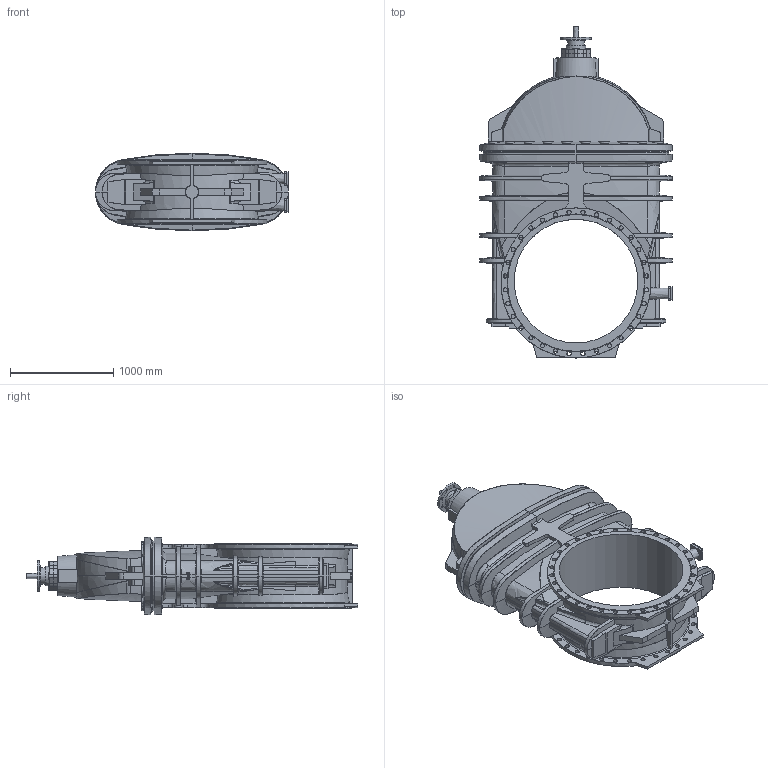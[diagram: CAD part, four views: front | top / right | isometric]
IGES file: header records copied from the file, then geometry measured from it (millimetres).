
Start section: SolidWorks IGES file using analytic representation for surfaces
Global section: file name: \\avksan2\techshare\PBM outline export from Enovia\O_06_30_DN1200_X90XXXXX_REV03.igs; native system: SolidWorks 2022; preprocessor: SolidWorks 2022; author: pbm; date: 240228.083147; units: millimetre
Bounding box: 1872.55 x 3220.6 x 752.55 mm (x, y, z)
Surface area: 17729874.5 mm2 (no closed solid volume)
Topology: 0 solids, 2 shells, 871 faces, 4904 edges, 4812 vertices
Faces by surface type: bspline 588, revolution 283
